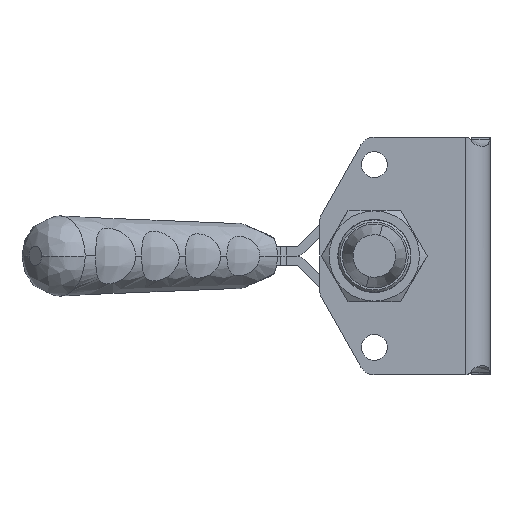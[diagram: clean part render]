
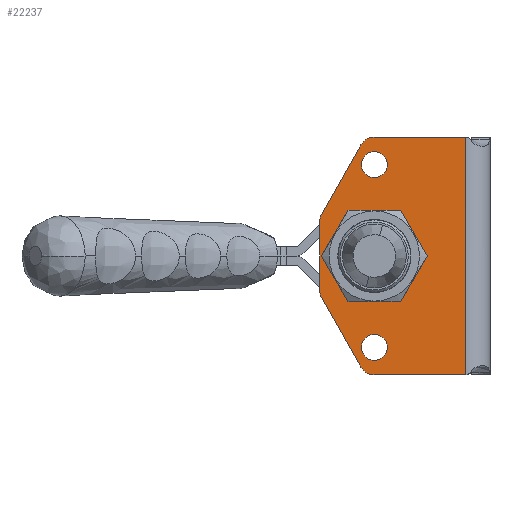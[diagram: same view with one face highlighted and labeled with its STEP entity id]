
A CAD part, left-side view. The second image highlights one B-rep face of the part: STEP entity #22237.
In plain terms, the highlighted planar face has unit normal (-1, 0, 0).
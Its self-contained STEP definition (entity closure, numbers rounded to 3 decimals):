
#41 = DIRECTION ( 'NONE',  ( 0., 1., 0. ) ) ;
#174 = EDGE_CURVE ( 'NONE', #5399, #19506, #20067, .T. ) ;
#397 = LINE ( 'NONE', #19759, #12496 ) ;
#414 = DIRECTION ( 'NONE',  ( 0., 1., 0. ) ) ;
#506 = ORIENTED_EDGE ( 'NONE', *, *, #4474, .T. ) ;
#541 = ORIENTED_EDGE ( 'NONE', *, *, #16864, .F. ) ;
#568 = VERTEX_POINT ( 'NONE', #18159 ) ;
#1171 = VERTEX_POINT ( 'NONE', #19004 ) ;
#1211 = DIRECTION ( 'NONE',  ( 1., 0., 0. ) ) ;
#1458 = CIRCLE ( 'NONE', #14040, 4.25 ) ;
#1467 = CARTESIAN_POINT ( 'NONE',  ( 29.85, 44.996, 11.183 ) ) ;
#1802 = CARTESIAN_POINT ( 'NONE',  ( 29.85, 31.996, 0. ) ) ;
#1991 = DIRECTION ( 'NONE',  ( 0., 0.493, 0.87 ) ) ;
#2144 = CARTESIAN_POINT ( 'NONE',  ( 29.85, 32.081, -34. ) ) ;
#2409 = AXIS2_PLACEMENT_3D ( 'NONE', #10463, #7429, #21044 ) ;
#2658 = DIRECTION ( 'NONE',  ( 0., 1., 0. ) ) ;
#3119 = CARTESIAN_POINT ( 'NONE',  ( 29.85, 31.996, -30. ) ) ;
#3299 = ORIENTED_EDGE ( 'NONE', *, *, #14233, .F. ) ;
#3361 = ORIENTED_EDGE ( 'NONE', *, *, #5407, .T. ) ;
#3402 = CIRCLE ( 'NONE', #6292, 12.1 ) ;
#3467 = CIRCLE ( 'NONE', #2409, 5. ) ;
#3480 = FACE_BOUND ( 'NONE', #10252, .T. ) ;
#3676 = EDGE_CURVE ( 'NONE', #8548, #13295, #10297, .T. ) ;
#3726 = EDGE_CURVE ( 'NONE', #1171, #11257, #3467, .T. ) ;
#3734 = DIRECTION ( 'NONE',  ( 0., 1., 0. ) ) ;
#3740 = ORIENTED_EDGE ( 'NONE', *, *, #9604, .F. ) ;
#3868 = CARTESIAN_POINT ( 'NONE',  ( 29.85, 31.996, 0. ) ) ;
#3920 = EDGE_LOOP ( 'NONE', ( #18134, #3361 ) ) ;
#4474 = EDGE_CURVE ( 'NONE', #14261, #8924, #12884, .T. ) ;
#4525 = VECTOR ( 'NONE', #21205, 1000. ) ;
#4716 = CARTESIAN_POINT ( 'NONE',  ( 29.85, -35.004, 39. ) ) ;
#5201 = VECTOR ( 'NONE', #16640, 1000. ) ;
#5297 = DIRECTION ( 'NONE',  ( -1., 0., 0. ) ) ;
#5399 = VERTEX_POINT ( 'NONE', #15629 ) ;
#5407 = EDGE_CURVE ( 'NONE', #19506, #5399, #20447, .T. ) ;
#5452 = LINE ( 'NONE', #19302, #6710 ) ;
#5559 = VERTEX_POINT ( 'NONE', #7529 ) ;
#5582 = CIRCLE ( 'NONE', #13474, 5. ) ;
#5955 = CIRCLE ( 'NONE', #17445, 4.25 ) ;
#5999 = ORIENTED_EDGE ( 'NONE', *, *, #19570, .T. ) ;
#6292 = AXIS2_PLACEMENT_3D ( 'NONE', #13443, #19890, #15035 ) ;
#6398 = LINE ( 'NONE', #4716, #5201 ) ;
#6710 = VECTOR ( 'NONE', #41, 1000. ) ;
#6768 = CARTESIAN_POINT ( 'NONE',  ( 29.85, 36.246, -30. ) ) ;
#6891 = DIRECTION ( 'NONE',  ( 1., 0., 0. ) ) ;
#6946 = DIRECTION ( 'NONE',  ( 0., 1., 0. ) ) ;
#7368 = EDGE_CURVE ( 'NONE', #13437, #11294, #9158, .T. ) ;
#7429 = DIRECTION ( 'NONE',  ( 1., 0., 0. ) ) ;
#7442 = CARTESIAN_POINT ( 'NONE',  ( 29.85, 44.096, 0. ) ) ;
#7529 = CARTESIAN_POINT ( 'NONE',  ( 29.85, 27.746, -30. ) ) ;
#8176 = VECTOR ( 'NONE', #12836, 1000. ) ;
#8548 = VERTEX_POINT ( 'NONE', #17266 ) ;
#8708 = EDGE_LOOP ( 'NONE', ( #9321, #5999 ) ) ;
#8773 = DIRECTION ( 'NONE',  ( 1., 0., 0. ) ) ;
#8809 = AXIS2_PLACEMENT_3D ( 'NONE', #2144, #8773, #9007 ) ;
#8924 = VERTEX_POINT ( 'NONE', #15785 ) ;
#9007 = DIRECTION ( 'NONE',  ( 0., 1., 0. ) ) ;
#9044 = DIRECTION ( 'NONE',  ( 1., 0., 0. ) ) ;
#9158 = LINE ( 'NONE', #19523, #4525 ) ;
#9321 = ORIENTED_EDGE ( 'NONE', *, *, #21144, .T. ) ;
#9336 = ORIENTED_EDGE ( 'NONE', *, *, #13707, .F. ) ;
#9604 = EDGE_CURVE ( 'NONE', #13295, #1171, #397, .T. ) ;
#9779 = CARTESIAN_POINT ( 'NONE',  ( 29.85, 44.996, -11.183 ) ) ;
#10252 = EDGE_LOOP ( 'NONE', ( #506, #20954 ) ) ;
#10259 = CARTESIAN_POINT ( 'NONE',  ( 29.85, 31.996, -30. ) ) ;
#10297 = CIRCLE ( 'NONE', #11401, 5. ) ;
#10351 = FACE_BOUND ( 'NONE', #8708, .T. ) ;
#10463 = CARTESIAN_POINT ( 'NONE',  ( 29.85, 32.081, 34. ) ) ;
#11182 = DIRECTION ( 'NONE',  ( 0., -0.493, 0.87 ) ) ;
#11257 = VERTEX_POINT ( 'NONE', #18922 ) ;
#11294 = VERTEX_POINT ( 'NONE', #13399 ) ;
#11401 = AXIS2_PLACEMENT_3D ( 'NONE', #1467, #15433, #16998 ) ;
#12152 = DIRECTION ( 'NONE',  ( 0., -1., 0. ) ) ;
#12357 = CARTESIAN_POINT ( 'NONE',  ( 29.85, 31.996, 30. ) ) ;
#12496 = VECTOR ( 'NONE', #11182, 1000. ) ;
#12607 = VERTEX_POINT ( 'NONE', #6768 ) ;
#12836 = DIRECTION ( 'NONE',  ( 0., 0., 1. ) ) ;
#12884 = CIRCLE ( 'NONE', #17195, 12.1 ) ;
#12897 = AXIS2_PLACEMENT_3D ( 'NONE', #12357, #19243, #414 ) ;
#12925 = CARTESIAN_POINT ( 'NONE',  ( 29.85, 49.347, 13.646 ) ) ;
#13295 = VERTEX_POINT ( 'NONE', #12925 ) ;
#13399 = CARTESIAN_POINT ( 'NONE',  ( 29.85, 2., 39. ) ) ;
#13437 = VERTEX_POINT ( 'NONE', #22020 ) ;
#13443 = CARTESIAN_POINT ( 'NONE',  ( 29.85, 31.996, 0. ) ) ;
#13474 = AXIS2_PLACEMENT_3D ( 'NONE', #9779, #1211, #6946 ) ;
#13586 = DIRECTION ( 'NONE',  ( 1., 0., 0. ) ) ;
#13707 = EDGE_CURVE ( 'NONE', #13437, #19850, #5452, .T. ) ;
#14040 = AXIS2_PLACEMENT_3D ( 'NONE', #3119, #13586, #16848 ) ;
#14233 = EDGE_CURVE ( 'NONE', #568, #8548, #21180, .T. ) ;
#14261 = VERTEX_POINT ( 'NONE', #7442 ) ;
#14992 = ORIENTED_EDGE ( 'NONE', *, *, #20820, .F. ) ;
#15035 = DIRECTION ( 'NONE',  ( 0., 1., 0. ) ) ;
#15396 = LINE ( 'NONE', #20675, #21005 ) ;
#15433 = DIRECTION ( 'NONE',  ( 1., 0., 0. ) ) ;
#15499 = VERTEX_POINT ( 'NONE', #18461 ) ;
#15629 = CARTESIAN_POINT ( 'NONE',  ( 29.85, 36.246, 30. ) ) ;
#15642 = CIRCLE ( 'NONE', #8809, 5. ) ;
#15785 = CARTESIAN_POINT ( 'NONE',  ( 29.85, 19.896, 0. ) ) ;
#15878 = EDGE_CURVE ( 'NONE', #11257, #11294, #6398, .T. ) ;
#15941 = DIRECTION ( 'NONE',  ( 1., 0., 0. ) ) ;
#16059 = EDGE_CURVE ( 'NONE', #21076, #15499, #15396, .T. ) ;
#16330 = EDGE_CURVE ( 'NONE', #8924, #14261, #3402, .T. ) ;
#16414 = ORIENTED_EDGE ( 'NONE', *, *, #7368, .T. ) ;
#16585 = CARTESIAN_POINT ( 'NONE',  ( 29.85, 36.432, -36.463 ) ) ;
#16607 = CARTESIAN_POINT ( 'NONE',  ( 29.85, 32.081, -39. ) ) ;
#16640 = DIRECTION ( 'NONE',  ( 0., -1., 0. ) ) ;
#16848 = DIRECTION ( 'NONE',  ( 0., 1., 0. ) ) ;
#16864 = EDGE_CURVE ( 'NONE', #19850, #21076, #15642, .T. ) ;
#16998 = DIRECTION ( 'NONE',  ( 0., 1., 0. ) ) ;
#17195 = AXIS2_PLACEMENT_3D ( 'NONE', #3868, #9044, #19516 ) ;
#17219 = PLANE ( 'NONE',  #20354 ) ;
#17266 = CARTESIAN_POINT ( 'NONE',  ( 29.85, 49.996, 11.183 ) ) ;
#17445 = AXIS2_PLACEMENT_3D ( 'NONE', #10259, #6891, #3734 ) ;
#18134 = ORIENTED_EDGE ( 'NONE', *, *, #174, .T. ) ;
#18159 = CARTESIAN_POINT ( 'NONE',  ( 29.85, 49.996, -11.183 ) ) ;
#18461 = CARTESIAN_POINT ( 'NONE',  ( 29.85, 49.347, -13.646 ) ) ;
#18654 = ORIENTED_EDGE ( 'NONE', *, *, #3676, .F. ) ;
#18911 = FACE_OUTER_BOUND ( 'NONE', #21801, .T. ) ;
#18922 = CARTESIAN_POINT ( 'NONE',  ( 29.85, 32.081, 39. ) ) ;
#19004 = CARTESIAN_POINT ( 'NONE',  ( 29.85, 36.432, 36.463 ) ) ;
#19243 = DIRECTION ( 'NONE',  ( 1., 0., 0. ) ) ;
#19302 = CARTESIAN_POINT ( 'NONE',  ( 29.85, 34.996, -39. ) ) ;
#19392 = CARTESIAN_POINT ( 'NONE',  ( 29.85, 49.996, 12.5 ) ) ;
#19506 = VERTEX_POINT ( 'NONE', #20666 ) ;
#19516 = DIRECTION ( 'NONE',  ( 0., 1., 0. ) ) ;
#19523 = CARTESIAN_POINT ( 'NONE',  ( 29.85, 2., 0. ) ) ;
#19570 = EDGE_CURVE ( 'NONE', #5559, #12607, #1458, .T. ) ;
#19759 = CARTESIAN_POINT ( 'NONE',  ( 29.85, 34.996, 39. ) ) ;
#19850 = VERTEX_POINT ( 'NONE', #16607 ) ;
#19890 = DIRECTION ( 'NONE',  ( 1., 0., 0. ) ) ;
#20067 = CIRCLE ( 'NONE', #21850, 4.25 ) ;
#20354 = AXIS2_PLACEMENT_3D ( 'NONE', #1802, #5297, #12152 ) ;
#20447 = CIRCLE ( 'NONE', #12897, 4.25 ) ;
#20666 = CARTESIAN_POINT ( 'NONE',  ( 29.85, 27.746, 30. ) ) ;
#20675 = CARTESIAN_POINT ( 'NONE',  ( 29.85, 49.996, -12.5 ) ) ;
#20705 = FACE_BOUND ( 'NONE', #3920, .T. ) ;
#20740 = ORIENTED_EDGE ( 'NONE', *, *, #16059, .F. ) ;
#20820 = EDGE_CURVE ( 'NONE', #15499, #568, #5582, .T. ) ;
#20915 = ORIENTED_EDGE ( 'NONE', *, *, #3726, .F. ) ;
#20954 = ORIENTED_EDGE ( 'NONE', *, *, #16330, .T. ) ;
#21005 = VECTOR ( 'NONE', #1991, 1000. ) ;
#21044 = DIRECTION ( 'NONE',  ( 0., 1., 0. ) ) ;
#21076 = VERTEX_POINT ( 'NONE', #16585 ) ;
#21144 = EDGE_CURVE ( 'NONE', #12607, #5559, #5955, .T. ) ;
#21180 = LINE ( 'NONE', #19392, #8176 ) ;
#21205 = DIRECTION ( 'NONE',  ( 0., 0., 1. ) ) ;
#21579 = CARTESIAN_POINT ( 'NONE',  ( 29.85, 31.996, 30. ) ) ;
#21801 = EDGE_LOOP ( 'NONE', ( #3299, #14992, #20740, #541, #9336, #16414, #22085, #20915, #3740, #18654 ) ) ;
#21850 = AXIS2_PLACEMENT_3D ( 'NONE', #21579, #15941, #2658 ) ;
#22020 = CARTESIAN_POINT ( 'NONE',  ( 29.85, 2., -39. ) ) ;
#22085 = ORIENTED_EDGE ( 'NONE', *, *, #15878, .F. ) ;
#22237 = ADVANCED_FACE ( 'NONE', ( #18911, #3480, #10351, #20705 ), #17219, .T. ) ;
